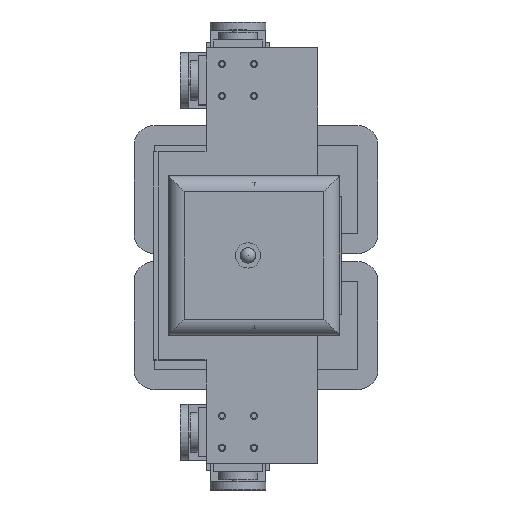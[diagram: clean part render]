
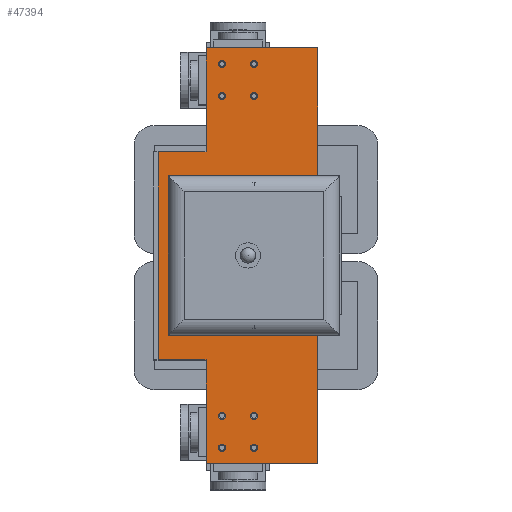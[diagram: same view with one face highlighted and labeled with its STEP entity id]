
A CAD part, top view. The second image highlights one B-rep face of the part: STEP entity #47394.
In plain terms, the highlighted planar face has unit normal (0, 0, 1).
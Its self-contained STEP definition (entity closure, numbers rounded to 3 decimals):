
#45193 = VERTEX_POINT('',#45194);
#45194 = CARTESIAN_POINT('',(-40.,-52.,513.5));
#45200 = EDGE_CURVE('',#45193,#45201,#45203,.T.);
#45201 = VERTEX_POINT('',#45202);
#45202 = CARTESIAN_POINT('',(-16.,-52.,513.5));
#45203 = LINE('',#45204,#45205);
#45204 = CARTESIAN_POINT('',(-40.,-52.,513.5));
#45205 = VECTOR('',#45206,1.);
#45206 = DIRECTION('',(1.,0.,0.));
#45464 = VERTEX_POINT('',#45465);
#45465 = CARTESIAN_POINT('',(-40.,52.,513.5));
#45471 = EDGE_CURVE('',#45464,#45472,#45474,.T.);
#45472 = VERTEX_POINT('',#45473);
#45473 = CARTESIAN_POINT('',(-16.,52.,513.5));
#45474 = LINE('',#45475,#45476);
#45475 = CARTESIAN_POINT('',(-40.,52.,513.5));
#45476 = VECTOR('',#45477,1.);
#45477 = DIRECTION('',(1.,0.,0.));
#45611 = VERTEX_POINT('',#45612);
#45612 = CARTESIAN_POINT('',(-16.,-104.,513.5));
#45620 = EDGE_CURVE('',#45611,#45201,#45621,.T.);
#45621 = LINE('',#45622,#45623);
#45622 = CARTESIAN_POINT('',(-16.,-104.,513.5));
#45623 = VECTOR('',#45624,1.);
#45624 = DIRECTION('',(0.,1.,0.));
#45738 = EDGE_CURVE('',#45739,#45739,#45741,.T.);
#45739 = VERTEX_POINT('',#45740);
#45740 = CARTESIAN_POINT('',(-28.85,0.,513.5));
#45741 = CIRCLE('',#45742,1.25);
#45742 = AXIS2_PLACEMENT_3D('',#45743,#45744,#45745);
#45743 = CARTESIAN_POINT('',(-30.1,0.,513.5));
#45744 = DIRECTION('',(0.,0.,1.));
#45745 = DIRECTION('',(1.,0.,0.));
#45764 = VERTEX_POINT('',#45765);
#45765 = CARTESIAN_POINT('',(17.4,-12.75,513.5));
#45773 = VERTEX_POINT('',#45774);
#45774 = CARTESIAN_POINT('',(-28.6,-12.75,513.5));
#45780 = EDGE_CURVE('',#45764,#45773,#45781,.T.);
#45781 = LINE('',#45782,#45783);
#45782 = CARTESIAN_POINT('',(-34.3,-12.75,513.5));
#45783 = VECTOR('',#45784,1.);
#45784 = DIRECTION('',(-1.,0.,0.));
#45797 = VERTEX_POINT('',#45798);
#45798 = CARTESIAN_POINT('',(17.4,12.75,513.5));
#45804 = EDGE_CURVE('',#45764,#45797,#45805,.T.);
#45805 = LINE('',#45806,#45807);
#45806 = CARTESIAN_POINT('',(17.4,-32.375,513.5));
#45807 = VECTOR('',#45808,1.);
#45808 = DIRECTION('',(0.,1.,0.));
#45821 = VERTEX_POINT('',#45822);
#45822 = CARTESIAN_POINT('',(-28.6,12.75,513.5));
#45828 = EDGE_CURVE('',#45773,#45821,#45829,.T.);
#45829 = LINE('',#45830,#45831);
#45830 = CARTESIAN_POINT('',(-28.6,-32.375,513.5));
#45831 = VECTOR('',#45832,1.);
#45832 = DIRECTION('',(0.,1.,0.));
#45845 = EDGE_CURVE('',#45797,#45821,#45846,.T.);
#45846 = LINE('',#45847,#45848);
#45847 = CARTESIAN_POINT('',(-34.3,12.75,513.5));
#45848 = VECTOR('',#45849,1.);
#45849 = DIRECTION('',(-1.,0.,0.));
#45859 = EDGE_CURVE('',#45860,#45860,#45862,.T.);
#45860 = VERTEX_POINT('',#45861);
#45861 = CARTESIAN_POINT('',(20.15,0.,513.5));
#45862 = CIRCLE('',#45863,1.25);
#45863 = AXIS2_PLACEMENT_3D('',#45864,#45865,#45866);
#45864 = CARTESIAN_POINT('',(18.9,0.,513.5));
#45865 = DIRECTION('',(0.,0.,1.));
#45866 = DIRECTION('',(1.,0.,0.));
#46170 = VERTEX_POINT('',#46171);
#46171 = CARTESIAN_POINT('',(-16.,104.,513.5));
#46177 = EDGE_CURVE('',#45472,#46170,#46178,.T.);
#46178 = LINE('',#46179,#46180);
#46179 = CARTESIAN_POINT('',(-16.,52.,513.5));
#46180 = VECTOR('',#46181,1.);
#46181 = DIRECTION('',(0.,1.,0.));
#46577 = EDGE_CURVE('',#45611,#46578,#46580,.T.);
#46578 = VERTEX_POINT('',#46579);
#46579 = CARTESIAN_POINT('',(40.,-104.,513.5));
#46580 = LINE('',#46581,#46582);
#46581 = CARTESIAN_POINT('',(-16.,-104.,513.5));
#46582 = VECTOR('',#46583,1.);
#46583 = DIRECTION('',(1.,0.,0.));
#46599 = EDGE_CURVE('',#46600,#46600,#46602,.T.);
#46600 = VERTEX_POINT('',#46601);
#46601 = CARTESIAN_POINT('',(-6.25,-96.,513.5));
#46602 = CIRCLE('',#46603,1.75);
#46603 = AXIS2_PLACEMENT_3D('',#46604,#46605,#46606);
#46604 = CARTESIAN_POINT('',(-8.,-96.,513.5));
#46605 = DIRECTION('',(0.,0.,1.));
#46606 = DIRECTION('',(1.,0.,0.));
#46624 = EDGE_CURVE('',#46625,#46625,#46627,.T.);
#46625 = VERTEX_POINT('',#46626);
#46626 = CARTESIAN_POINT('',(9.75,-96.,513.5));
#46627 = CIRCLE('',#46628,1.75);
#46628 = AXIS2_PLACEMENT_3D('',#46629,#46630,#46631);
#46629 = CARTESIAN_POINT('',(8.,-96.,513.5));
#46630 = DIRECTION('',(0.,0.,1.));
#46631 = DIRECTION('',(1.,0.,0.));
#46649 = EDGE_CURVE('',#46650,#46650,#46652,.T.);
#46650 = VERTEX_POINT('',#46651);
#46651 = CARTESIAN_POINT('',(-6.25,-80.,513.5));
#46652 = CIRCLE('',#46653,1.75);
#46653 = AXIS2_PLACEMENT_3D('',#46654,#46655,#46656);
#46654 = CARTESIAN_POINT('',(-8.,-80.,513.5));
#46655 = DIRECTION('',(0.,0.,1.));
#46656 = DIRECTION('',(1.,0.,0.));
#46674 = EDGE_CURVE('',#46675,#46675,#46677,.T.);
#46675 = VERTEX_POINT('',#46676);
#46676 = CARTESIAN_POINT('',(9.75,-80.,513.5));
#46677 = CIRCLE('',#46678,1.75);
#46678 = AXIS2_PLACEMENT_3D('',#46679,#46680,#46681);
#46679 = CARTESIAN_POINT('',(8.,-80.,513.5));
#46680 = DIRECTION('',(0.,0.,1.));
#46681 = DIRECTION('',(1.,0.,0.));
#46701 = EDGE_CURVE('',#46170,#46702,#46704,.T.);
#46702 = VERTEX_POINT('',#46703);
#46703 = CARTESIAN_POINT('',(40.,104.,513.5));
#46704 = LINE('',#46705,#46706);
#46705 = CARTESIAN_POINT('',(-16.,104.,513.5));
#46706 = VECTOR('',#46707,1.);
#46707 = DIRECTION('',(1.,0.,0.));
#46723 = EDGE_CURVE('',#46724,#46724,#46726,.T.);
#46724 = VERTEX_POINT('',#46725);
#46725 = CARTESIAN_POINT('',(-6.25,80.,513.5));
#46726 = CIRCLE('',#46727,1.75);
#46727 = AXIS2_PLACEMENT_3D('',#46728,#46729,#46730);
#46728 = CARTESIAN_POINT('',(-8.,80.,513.5));
#46729 = DIRECTION('',(0.,0.,1.));
#46730 = DIRECTION('',(1.,0.,0.));
#46748 = EDGE_CURVE('',#46749,#46749,#46751,.T.);
#46749 = VERTEX_POINT('',#46750);
#46750 = CARTESIAN_POINT('',(9.75,80.,513.5));
#46751 = CIRCLE('',#46752,1.75);
#46752 = AXIS2_PLACEMENT_3D('',#46753,#46754,#46755);
#46753 = CARTESIAN_POINT('',(8.,80.,513.5));
#46754 = DIRECTION('',(0.,0.,1.));
#46755 = DIRECTION('',(1.,0.,0.));
#46773 = EDGE_CURVE('',#46774,#46774,#46776,.T.);
#46774 = VERTEX_POINT('',#46775);
#46775 = CARTESIAN_POINT('',(-6.25,96.,513.5));
#46776 = CIRCLE('',#46777,1.75);
#46777 = AXIS2_PLACEMENT_3D('',#46778,#46779,#46780);
#46778 = CARTESIAN_POINT('',(-8.,96.,513.5));
#46779 = DIRECTION('',(0.,0.,1.));
#46780 = DIRECTION('',(1.,0.,0.));
#46798 = EDGE_CURVE('',#46799,#46799,#46801,.T.);
#46799 = VERTEX_POINT('',#46800);
#46800 = CARTESIAN_POINT('',(9.75,96.,513.5));
#46801 = CIRCLE('',#46802,1.75);
#46802 = AXIS2_PLACEMENT_3D('',#46803,#46804,#46805);
#46803 = CARTESIAN_POINT('',(8.,96.,513.5));
#46804 = DIRECTION('',(0.,0.,1.));
#46805 = DIRECTION('',(1.,0.,0.));
#47140 = EDGE_CURVE('',#45193,#45464,#47141,.T.);
#47141 = LINE('',#47142,#47143);
#47142 = CARTESIAN_POINT('',(-40.,-52.,513.5));
#47143 = VECTOR('',#47144,1.);
#47144 = DIRECTION('',(0.,1.,0.));
#47394 = ADVANCED_FACE('',(#47395,#47410,#47416,#47419,#47422,#47425,
    #47428,#47431,#47434,#47437,#47440,#47443),#47446,.T.);
#47395 = FACE_BOUND('',#47396,.T.);
#47396 = EDGE_LOOP('',(#47397,#47398,#47399,#47400,#47401,#47407,#47408,
    #47409));
#47397 = ORIENTED_EDGE('',*,*,#47140,.F.);
#47398 = ORIENTED_EDGE('',*,*,#45200,.T.);
#47399 = ORIENTED_EDGE('',*,*,#45620,.F.);
#47400 = ORIENTED_EDGE('',*,*,#46577,.T.);
#47401 = ORIENTED_EDGE('',*,*,#47402,.T.);
#47402 = EDGE_CURVE('',#46578,#46702,#47403,.T.);
#47403 = LINE('',#47404,#47405);
#47404 = CARTESIAN_POINT('',(40.,-104.,513.5));
#47405 = VECTOR('',#47406,1.);
#47406 = DIRECTION('',(0.,1.,0.));
#47407 = ORIENTED_EDGE('',*,*,#46701,.F.);
#47408 = ORIENTED_EDGE('',*,*,#46177,.F.);
#47409 = ORIENTED_EDGE('',*,*,#45471,.F.);
#47410 = FACE_BOUND('',#47411,.T.);
#47411 = EDGE_LOOP('',(#47412,#47413,#47414,#47415));
#47412 = ORIENTED_EDGE('',*,*,#45780,.T.);
#47413 = ORIENTED_EDGE('',*,*,#45828,.T.);
#47414 = ORIENTED_EDGE('',*,*,#45845,.F.);
#47415 = ORIENTED_EDGE('',*,*,#45804,.F.);
#47416 = FACE_BOUND('',#47417,.T.);
#47417 = EDGE_LOOP('',(#47418));
#47418 = ORIENTED_EDGE('',*,*,#46723,.F.);
#47419 = FACE_BOUND('',#47420,.T.);
#47420 = EDGE_LOOP('',(#47421));
#47421 = ORIENTED_EDGE('',*,*,#46748,.F.);
#47422 = FACE_BOUND('',#47423,.T.);
#47423 = EDGE_LOOP('',(#47424));
#47424 = ORIENTED_EDGE('',*,*,#46773,.F.);
#47425 = FACE_BOUND('',#47426,.T.);
#47426 = EDGE_LOOP('',(#47427));
#47427 = ORIENTED_EDGE('',*,*,#46798,.F.);
#47428 = FACE_BOUND('',#47429,.T.);
#47429 = EDGE_LOOP('',(#47430));
#47430 = ORIENTED_EDGE('',*,*,#46599,.F.);
#47431 = FACE_BOUND('',#47432,.T.);
#47432 = EDGE_LOOP('',(#47433));
#47433 = ORIENTED_EDGE('',*,*,#46624,.F.);
#47434 = FACE_BOUND('',#47435,.T.);
#47435 = EDGE_LOOP('',(#47436));
#47436 = ORIENTED_EDGE('',*,*,#46649,.F.);
#47437 = FACE_BOUND('',#47438,.T.);
#47438 = EDGE_LOOP('',(#47439));
#47439 = ORIENTED_EDGE('',*,*,#46674,.F.);
#47440 = FACE_BOUND('',#47441,.T.);
#47441 = EDGE_LOOP('',(#47442));
#47442 = ORIENTED_EDGE('',*,*,#45738,.F.);
#47443 = FACE_BOUND('',#47444,.T.);
#47444 = EDGE_LOOP('',(#47445));
#47445 = ORIENTED_EDGE('',*,*,#45859,.F.);
#47446 = PLANE('',#47447);
#47447 = AXIS2_PLACEMENT_3D('',#47448,#47449,#47450);
#47448 = CARTESIAN_POINT('',(4.333,0.,513.5));
#47449 = DIRECTION('',(0.,0.,1.));
#47450 = DIRECTION('',(1.,0.,0.));
